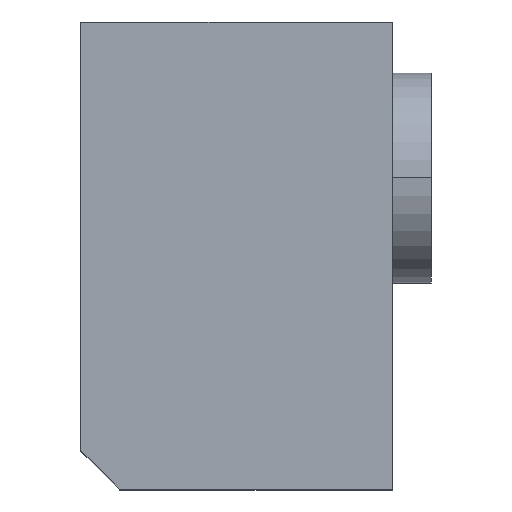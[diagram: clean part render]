
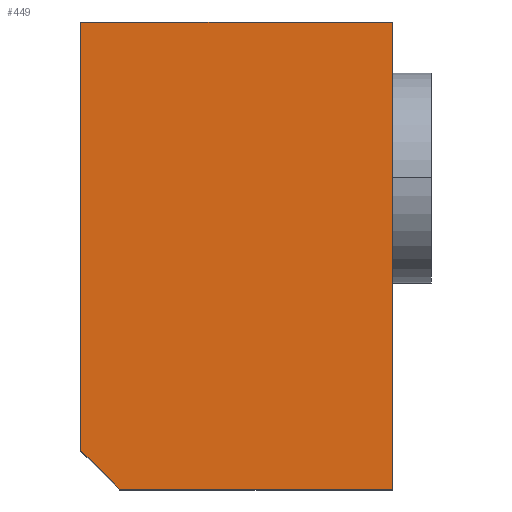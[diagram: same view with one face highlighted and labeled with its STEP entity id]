
A CAD part, top view. The second image highlights one B-rep face of the part: STEP entity #449.
In plain terms, the highlighted planar face has unit normal (0, 0, 1).
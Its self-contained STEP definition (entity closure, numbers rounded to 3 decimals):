
#61=CARTESIAN_POINT('Vertex',(5.,0.,32.5)) ;
#77=CARTESIAN_POINT('Vertex',(40.,0.,32.5)) ;
#80=CARTESIAN_POINT('Line Origine',(22.5,0.,32.5)) ;
#268=CARTESIAN_POINT('Line Origine',(2.5,2.5,32.5)) ;
#272=CARTESIAN_POINT('Vertex',(0.,5.,32.5)) ;
#328=CARTESIAN_POINT('Vertex',(40.,60.,32.5)) ;
#331=CARTESIAN_POINT('Line Origine',(40.,30.,32.5)) ;
#425=CARTESIAN_POINT('Axis2P3D Location',(40.,60.,32.5)) ;
#430=CARTESIAN_POINT('Line Origine',(20.,60.,32.5)) ;
#434=CARTESIAN_POINT('Vertex',(0.,60.,32.5)) ;
#437=CARTESIAN_POINT('Line Origine',(0.,32.5,32.5)) ;
#81=DIRECTION('Vector Direction',(-1.,0.,0.)) ;
#269=DIRECTION('Vector Direction',(-0.707,0.707,0.)) ;
#332=DIRECTION('Vector Direction',(0.,-1.,0.)) ;
#426=DIRECTION('Axis2P3D Direction',(0.,0.,-1.)) ;
#427=DIRECTION('Axis2P3D XDirection',(-1.,0.,0.)) ;
#431=DIRECTION('Vector Direction',(-1.,0.,0.)) ;
#438=DIRECTION('Vector Direction',(0.,-1.,0.)) ;
#428=AXIS2_PLACEMENT_3D('Plane Axis2P3D',#425,#426,#427) ;
#443=ORIENTED_EDGE('',*,*,#274,.F.) ;
#444=ORIENTED_EDGE('',*,*,#84,.F.) ;
#445=ORIENTED_EDGE('',*,*,#335,.F.) ;
#446=ORIENTED_EDGE('',*,*,#436,.T.) ;
#447=ORIENTED_EDGE('',*,*,#441,.T.) ;
#82=VECTOR('Line Direction',#81,1.) ;
#270=VECTOR('Line Direction',#269,1.) ;
#333=VECTOR('Line Direction',#332,1.) ;
#432=VECTOR('Line Direction',#431,1.) ;
#439=VECTOR('Line Direction',#438,1.) ;
#449=ADVANCED_FACE('751-040065',(#448),#429,.F.) ;
#84=EDGE_CURVE('',#78,#62,#83,.T.) ;
#274=EDGE_CURVE('',#62,#273,#271,.T.) ;
#335=EDGE_CURVE('',#329,#78,#334,.T.) ;
#436=EDGE_CURVE('',#329,#435,#433,.T.) ;
#441=EDGE_CURVE('',#435,#273,#440,.T.) ;
#442=EDGE_LOOP('',(#443,#444,#445,#446,#447)) ;
#448=FACE_OUTER_BOUND('',#442,.T.) ;
#83=LINE('Line',#80,#82) ;
#271=LINE('Line',#268,#270) ;
#334=LINE('Line',#331,#333) ;
#433=LINE('Line',#430,#432) ;
#440=LINE('Line',#437,#439) ;
#429=PLANE('Plane',#428) ;
#62=VERTEX_POINT('',#61) ;
#78=VERTEX_POINT('',#77) ;
#273=VERTEX_POINT('',#272) ;
#329=VERTEX_POINT('',#328) ;
#435=VERTEX_POINT('',#434) ;
